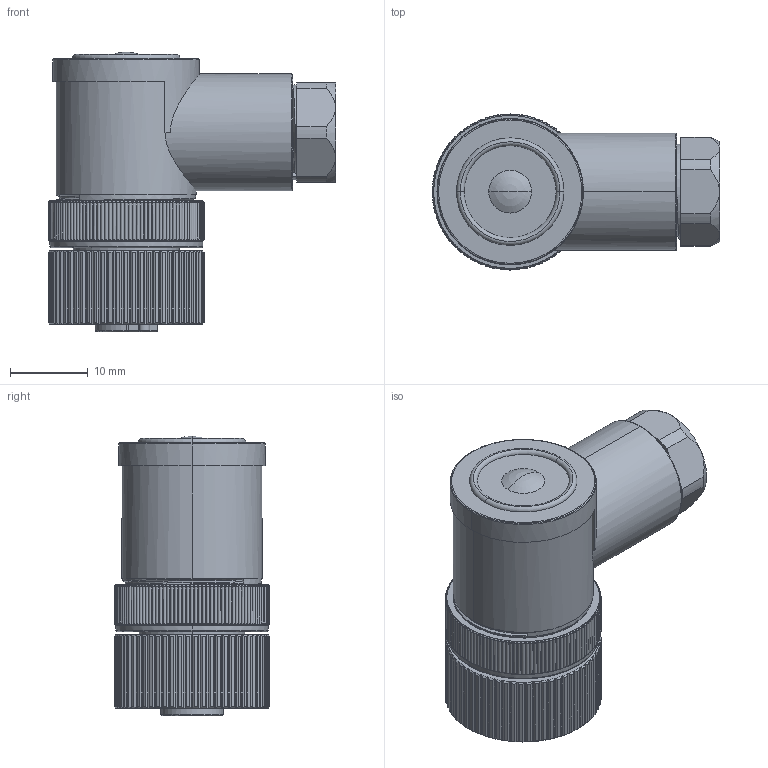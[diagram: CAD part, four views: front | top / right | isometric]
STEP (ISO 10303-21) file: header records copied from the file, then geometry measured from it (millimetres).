
FILE_DESCRIPTION((''),'2;1');
FILE_NAME('XC-M12-RWK-PG7','2025-06-21T15:13:35',('lyj'),(''),'CREO PARAMETRIC BY PTC INC, 2019010','CREO PARAMETRIC BY PTC INC, 2019010','');
FILE_SCHEMA(('CONFIG_CONTROL_DESIGN'));
Length unit declared in the file: millimetre
Products named in the file (1): XC-M12-RWK-PG7
Bounding box: 36.9 x 20 x 35.9 mm (x, y, z)
Volume: 8785.3 mm3; surface area: 11073.1 mm2
Topology: 2 solids, 10 shells, 1471 faces, 3961 edges, 2551 vertices
Faces by surface type: cylinder 592, cone 397, plane 378, bspline 49, extrusion 29, torus 22, sphere 4
Entity records: 81980 total; most frequent: CARTESIAN_POINT 46622, ORIENTED_EDGE 7914, DIRECTION 6778, EDGE_CURVE 3957, AXIS2_PLACEMENT_3D 2716, VERTEX_POINT 2551, EDGE_LOOP 1552, FACE_OUTER_BOUND 1471
